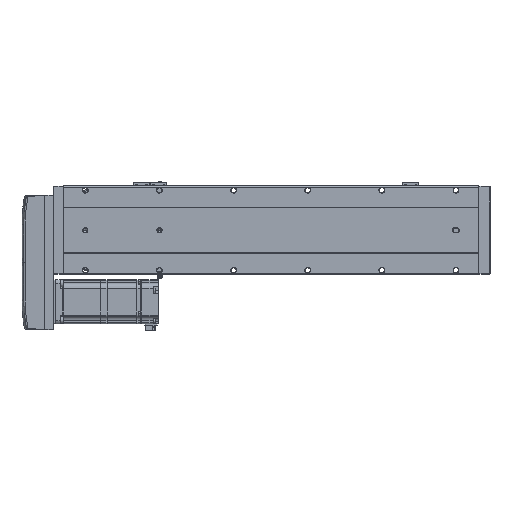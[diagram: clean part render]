
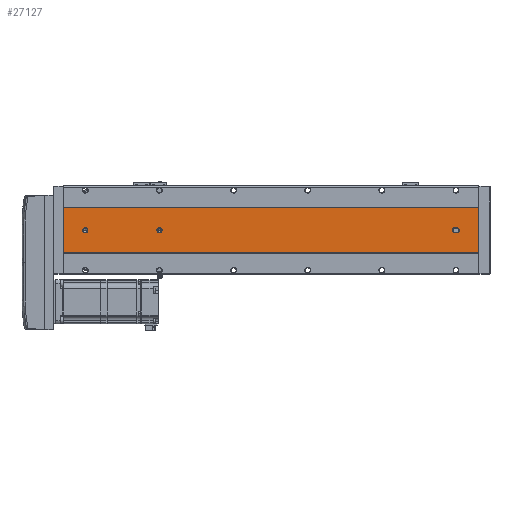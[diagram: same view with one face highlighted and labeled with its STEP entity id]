
A CAD part, front view. The second image highlights one B-rep face of the part: STEP entity #27127.
In plain terms, the highlighted planar face has unit normal (0, -1, 0).
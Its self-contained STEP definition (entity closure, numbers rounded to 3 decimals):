
#495 = ORIENTED_EDGE ( 'NONE', *, *, #62986, .T. ) ;
#865 = ORIENTED_EDGE ( 'NONE', *, *, #43795, .T. ) ;
#1484 = CARTESIAN_POINT ( 'NONE',  ( -69.892, -52.848, 0. ) ) ;
#2408 = LINE ( 'NONE', #76825, #32900 ) ;
#3315 = CARTESIAN_POINT ( 'NONE',  ( -69.892, -52.848, 561. ) ) ;
#3430 = CARTESIAN_POINT ( 'NONE',  ( -9.892, -52.848, 561. ) ) ;
#4122 = FACE_OUTER_BOUND ( 'NONE', #41362, .T. ) ;
#5839 = VERTEX_POINT ( 'NONE', #33095 ) ;
#6262 = DIRECTION ( 'NONE',  ( 1., 0., 0. ) ) ;
#6727 = EDGE_CURVE ( 'NONE', #51154, #34759, #65184, .T. ) ;
#7567 = DIRECTION ( 'NONE',  ( 0., 0., 1. ) ) ;
#8281 = CIRCLE ( 'NONE', #12415, 3.5 ) ;
#8889 = CIRCLE ( 'NONE', #19299, 3.5 ) ;
#9162 = AXIS2_PLACEMENT_3D ( 'NONE', #15892, #39048, #14830 ) ;
#9171 = CARTESIAN_POINT ( 'NONE',  ( -43.392, -52.848, 30. ) ) ;
#10656 = EDGE_LOOP ( 'NONE', ( #495, #72822 ) ) ;
#10669 = CARTESIAN_POINT ( 'NONE',  ( -43.392, -52.848, 32. ) ) ;
#10957 = ORIENTED_EDGE ( 'NONE', *, *, #16051, .T. ) ;
#11440 = CIRCLE ( 'NONE', #61808, 3.5 ) ;
#12023 = VERTEX_POINT ( 'NONE', #10669 ) ;
#12415 = AXIS2_PLACEMENT_3D ( 'NONE', #44419, #50498, #55385 ) ;
#14175 = PLANE ( 'NONE',  #57632 ) ;
#14830 = DIRECTION ( 'NONE',  ( 0., 0., 1. ) ) ;
#15047 = LINE ( 'NONE', #59903, #60959 ) ;
#15892 = CARTESIAN_POINT ( 'NONE',  ( -39.892, -52.848, 431. ) ) ;
#16051 = EDGE_CURVE ( 'NONE', #12023, #51154, #8281, .T. ) ;
#16475 = DIRECTION ( 'NONE',  ( 0., 1., 0. ) ) ;
#17541 = VERTEX_POINT ( 'NONE', #1484 ) ;
#17609 = VERTEX_POINT ( 'NONE', #9171 ) ;
#17752 = ORIENTED_EDGE ( 'NONE', *, *, #39215, .T. ) ;
#17853 = DIRECTION ( 'NONE',  ( 0., 0., 1. ) ) ;
#19018 = VERTEX_POINT ( 'NONE', #77726 ) ;
#19145 = CIRCLE ( 'NONE', #61623, 3.5 ) ;
#19299 = AXIS2_PLACEMENT_3D ( 'NONE', #48809, #74671, #40451 ) ;
#20035 = DIRECTION ( 'NONE',  ( 0., 0., 1. ) ) ;
#20323 = CARTESIAN_POINT ( 'NONE',  ( -39.892, -52.848, 431. ) ) ;
#20994 = DIRECTION ( 'NONE',  ( 0., 0., -1. ) ) ;
#21462 = DIRECTION ( 'NONE',  ( 0., 1., 0. ) ) ;
#21553 = ORIENTED_EDGE ( 'NONE', *, *, #57546, .F. ) ;
#21949 = AXIS2_PLACEMENT_3D ( 'NONE', #47341, #71882, #23523 ) ;
#23523 = DIRECTION ( 'NONE',  ( 0., 0., 1. ) ) ;
#25037 = EDGE_CURVE ( 'NONE', #17609, #12023, #39627, .T. ) ;
#26794 = ORIENTED_EDGE ( 'NONE', *, *, #6727, .T. ) ;
#27127 = ADVANCED_FACE ( 'NONE', ( #76698, #64245, #31736, #4122 ), #14175, .F. ) ;
#28052 = EDGE_CURVE ( 'NONE', #5839, #77048, #11440, .T. ) ;
#29067 = CIRCLE ( 'NONE', #21949, 3.5 ) ;
#31736 = FACE_BOUND ( 'NONE', #65973, .T. ) ;
#32900 = VECTOR ( 'NONE', #53023, 1000. ) ;
#33095 = CARTESIAN_POINT ( 'NONE',  ( -39.892, -52.848, 534.5 ) ) ;
#33143 = VERTEX_POINT ( 'NONE', #70231 ) ;
#34074 = CIRCLE ( 'NONE', #63688, 3.5 ) ;
#34249 = ORIENTED_EDGE ( 'NONE', *, *, #28052, .T. ) ;
#34759 = VERTEX_POINT ( 'NONE', #47011 ) ;
#35350 = VECTOR ( 'NONE', #20994, 1000. ) ;
#35758 = EDGE_CURVE ( 'NONE', #34759, #19018, #29067, .T. ) ;
#36153 = VERTEX_POINT ( 'NONE', #43730 ) ;
#36202 = CARTESIAN_POINT ( 'NONE',  ( -36.392, -52.848, 32. ) ) ;
#37615 = CARTESIAN_POINT ( 'NONE',  ( -69.892, -52.848, 561. ) ) ;
#38570 = VERTEX_POINT ( 'NONE', #63442 ) ;
#39048 = DIRECTION ( 'NONE',  ( 0., 1., 0. ) ) ;
#39215 = EDGE_CURVE ( 'NONE', #17541, #33143, #15047, .T. ) ;
#39299 = CARTESIAN_POINT ( 'NONE',  ( -39.892, -52.848, 30. ) ) ;
#39627 = LINE ( 'NONE', #71794, #75988 ) ;
#40451 = DIRECTION ( 'NONE',  ( 0., 0., 1. ) ) ;
#41362 = EDGE_LOOP ( 'NONE', ( #17752, #77889, #21553, #75795 ) ) ;
#42281 = VECTOR ( 'NONE', #45997, 1000. ) ;
#43585 = CARTESIAN_POINT ( 'NONE',  ( -39.892, -52.848, 527.5 ) ) ;
#43730 = CARTESIAN_POINT ( 'NONE',  ( -9.892, -52.848, 561. ) ) ;
#43795 = EDGE_CURVE ( 'NONE', #19018, #17609, #19145, .T. ) ;
#44419 = CARTESIAN_POINT ( 'NONE',  ( -39.892, -52.848, 32. ) ) ;
#44952 = LINE ( 'NONE', #3430, #35350 ) ;
#45091 = VECTOR ( 'NONE', #73356, 1000. ) ;
#45341 = CIRCLE ( 'NONE', #9162, 3.5 ) ;
#45997 = DIRECTION ( 'NONE',  ( 0., 0., -1. ) ) ;
#47011 = CARTESIAN_POINT ( 'NONE',  ( -36.392, -52.848, 30. ) ) ;
#47341 = CARTESIAN_POINT ( 'NONE',  ( -39.892, -52.848, 30. ) ) ;
#48809 = CARTESIAN_POINT ( 'NONE',  ( -39.892, -52.848, 531. ) ) ;
#49178 = CARTESIAN_POINT ( 'NONE',  ( -39.892, -52.848, 427.5 ) ) ;
#49281 = CARTESIAN_POINT ( 'NONE',  ( -36.392, -52.848, 561. ) ) ;
#49923 = DIRECTION ( 'NONE',  ( 0., 1., 0. ) ) ;
#50498 = DIRECTION ( 'NONE',  ( 0., 1., 0. ) ) ;
#51154 = VERTEX_POINT ( 'NONE', #36202 ) ;
#53023 = DIRECTION ( 'NONE',  ( 1., 0., 0. ) ) ;
#53528 = CARTESIAN_POINT ( 'NONE',  ( -39.892, -52.848, 531. ) ) ;
#54613 = EDGE_CURVE ( 'NONE', #77048, #5839, #8889, .T. ) ;
#55385 = DIRECTION ( 'NONE',  ( 0., 0., 1. ) ) ;
#57546 = EDGE_CURVE ( 'NONE', #38570, #36153, #2408, .T. ) ;
#57632 = AXIS2_PLACEMENT_3D ( 'NONE', #37615, #49923, #20035 ) ;
#59903 = CARTESIAN_POINT ( 'NONE',  ( -69.892, -52.848, 0. ) ) ;
#60959 = VECTOR ( 'NONE', #6262, 1000. ) ;
#61526 = VERTEX_POINT ( 'NONE', #49178 ) ;
#61619 = EDGE_CURVE ( 'NONE', #78259, #61526, #34074, .T. ) ;
#61623 = AXIS2_PLACEMENT_3D ( 'NONE', #39299, #21462, #75671 ) ;
#61808 = AXIS2_PLACEMENT_3D ( 'NONE', #53528, #16475, #78124 ) ;
#62986 = EDGE_CURVE ( 'NONE', #61526, #78259, #45341, .T. ) ;
#63018 = DIRECTION ( 'NONE',  ( 0., 1., 0. ) ) ;
#63442 = CARTESIAN_POINT ( 'NONE',  ( -69.892, -52.848, 561. ) ) ;
#63688 = AXIS2_PLACEMENT_3D ( 'NONE', #20323, #63018, #7567 ) ;
#64031 = EDGE_LOOP ( 'NONE', ( #26794, #67061, #865, #66329, #10957 ) ) ;
#64245 = FACE_BOUND ( 'NONE', #10656, .T. ) ;
#65184 = LINE ( 'NONE', #49281, #45091 ) ;
#65973 = EDGE_LOOP ( 'NONE', ( #73396, #34249 ) ) ;
#66329 = ORIENTED_EDGE ( 'NONE', *, *, #25037, .T. ) ;
#67061 = ORIENTED_EDGE ( 'NONE', *, *, #35758, .T. ) ;
#68757 = CARTESIAN_POINT ( 'NONE',  ( -39.892, -52.848, 434.5 ) ) ;
#68994 = LINE ( 'NONE', #3315, #42281 ) ;
#69890 = EDGE_CURVE ( 'NONE', #38570, #17541, #68994, .T. ) ;
#70231 = CARTESIAN_POINT ( 'NONE',  ( -9.892, -52.848, 0. ) ) ;
#70772 = EDGE_CURVE ( 'NONE', #36153, #33143, #44952, .T. ) ;
#71794 = CARTESIAN_POINT ( 'NONE',  ( -43.392, -52.848, 561. ) ) ;
#71882 = DIRECTION ( 'NONE',  ( 0., 1., 0. ) ) ;
#72822 = ORIENTED_EDGE ( 'NONE', *, *, #61619, .T. ) ;
#73356 = DIRECTION ( 'NONE',  ( 0., 0., -1. ) ) ;
#73396 = ORIENTED_EDGE ( 'NONE', *, *, #54613, .T. ) ;
#74671 = DIRECTION ( 'NONE',  ( 0., 1., 0. ) ) ;
#75671 = DIRECTION ( 'NONE',  ( 0., 0., 1. ) ) ;
#75795 = ORIENTED_EDGE ( 'NONE', *, *, #69890, .T. ) ;
#75988 = VECTOR ( 'NONE', #17853, 1000. ) ;
#76698 = FACE_BOUND ( 'NONE', #64031, .T. ) ;
#76825 = CARTESIAN_POINT ( 'NONE',  ( -69.892, -52.848, 561. ) ) ;
#77048 = VERTEX_POINT ( 'NONE', #43585 ) ;
#77726 = CARTESIAN_POINT ( 'NONE',  ( -39.892, -52.848, 26.5 ) ) ;
#77889 = ORIENTED_EDGE ( 'NONE', *, *, #70772, .F. ) ;
#78124 = DIRECTION ( 'NONE',  ( 0., 0., 1. ) ) ;
#78259 = VERTEX_POINT ( 'NONE', #68757 ) ;
